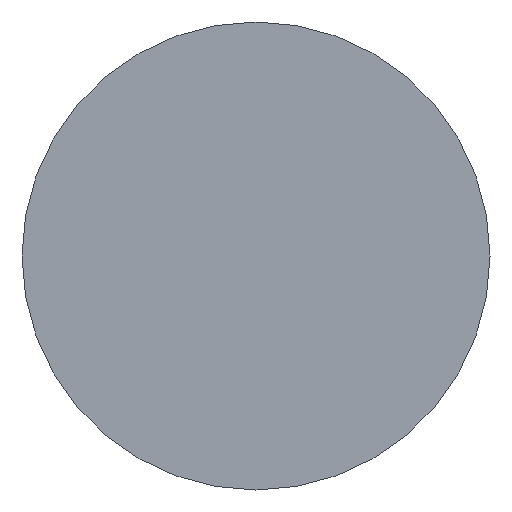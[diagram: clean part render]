
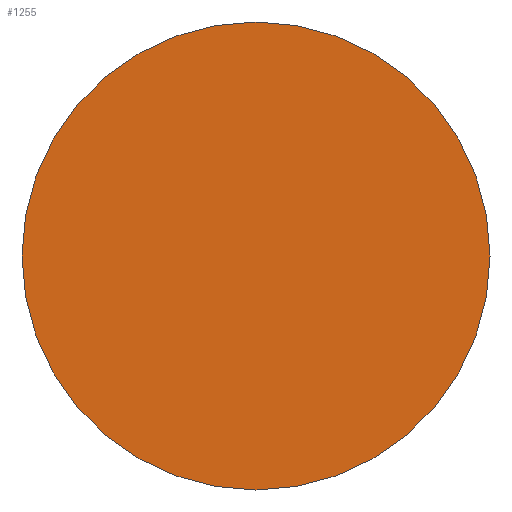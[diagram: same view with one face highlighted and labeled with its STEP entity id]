
A CAD part, front view. The second image highlights one B-rep face of the part: STEP entity #1255.
In plain terms, the highlighted planar face has unit normal (0, -1, 0).
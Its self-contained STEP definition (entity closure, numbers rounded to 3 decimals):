
#135 = DIRECTION ( 'NONE',  ( -1., 0., 0. ) ) ;
#209 = DIRECTION ( 'NONE',  ( -1., 0., 0. ) ) ;
#289 = ORIENTED_EDGE ( 'NONE', *, *, #1501, .T. ) ;
#299 = CARTESIAN_POINT ( 'NONE',  ( 29.5, -49.5, 31.5 ) ) ;
#478 = VERTEX_POINT ( 'NONE', #299 ) ;
#868 = EDGE_LOOP ( 'NONE', ( #289, #2485 ) ) ;
#904 = AXIS2_PLACEMENT_3D ( 'NONE', #2673, #1428, #135 ) ;
#955 = CARTESIAN_POINT ( 'NONE',  ( 14.75, -49.5, 31.5 ) ) ;
#960 = EDGE_CURVE ( 'NONE', #478, #1298, #1997, .T. ) ;
#1111 = FACE_OUTER_BOUND ( 'NONE', #868, .T. ) ;
#1184 = DIRECTION ( 'NONE',  ( 0., -1., 0. ) ) ;
#1255 = ADVANCED_FACE ( 'NONE', ( #1111 ), #2017, .T. ) ;
#1298 = VERTEX_POINT ( 'NONE', #2072 ) ;
#1428 = DIRECTION ( 'NONE',  ( 0., -1., 0. ) ) ;
#1500 = DIRECTION ( 'NONE',  ( 0., -1., 0. ) ) ;
#1501 = EDGE_CURVE ( 'NONE', #1298, #478, #2510, .T. ) ;
#1997 = CIRCLE ( 'NONE', #2240, 29.5 ) ;
#2017 = PLANE ( 'NONE',  #2482 ) ;
#2072 = CARTESIAN_POINT ( 'NONE',  ( -29.5, -49.5, 31.5 ) ) ;
#2240 = AXIS2_PLACEMENT_3D ( 'NONE', #2734, #1500, #209 ) ;
#2482 = AXIS2_PLACEMENT_3D ( 'NONE', #955, #1184, #2661 ) ;
#2485 = ORIENTED_EDGE ( 'NONE', *, *, #960, .T. ) ;
#2510 = CIRCLE ( 'NONE', #904, 29.5 ) ;
#2661 = DIRECTION ( 'NONE',  ( -1., 0., 0. ) ) ;
#2673 = CARTESIAN_POINT ( 'NONE',  ( 0., -49.5, 31.5 ) ) ;
#2734 = CARTESIAN_POINT ( 'NONE',  ( 0., -49.5, 31.5 ) ) ;
